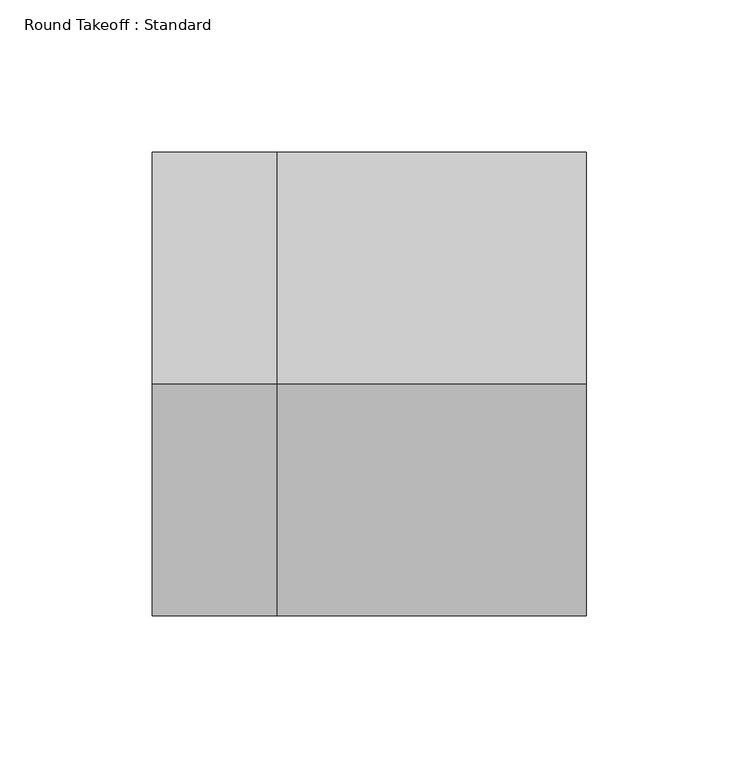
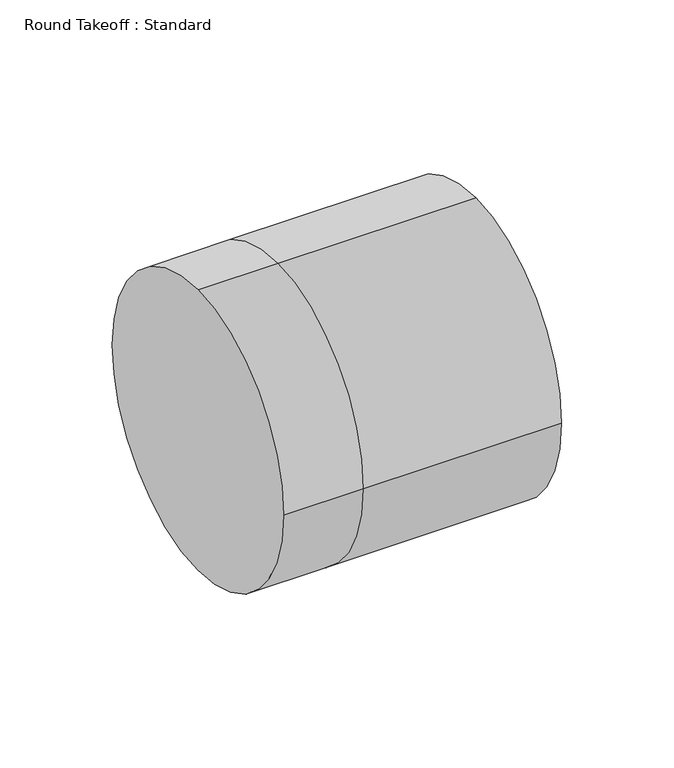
"""IFC4 building model written with IfcOpenShell, lengths in millimetres: duct fitting geometry, Round Takeoff : Standard."""

from ifc_helpers import new_model, si_unit, frame, origin, place, context, project, spatial, circle_curve, source, transform, mapped, element, save
from ifc_brep_helpers import plane_surface, cylinder_surface, advanced_brep


def round_takeoff_standard_90b5cc55(model_context):
    return source(origin(), model_context, "Body", "AdvancedBrep", [
        advanced_brep(
        [(101.6, 0.0, 76.2), (101.6, -76.2, 0.0), (101.6, 0.0, -76.2), (101.6, 76.2, 0.0), (0.0, 76.2, 0.0), (0.0, 0.0, 76.2), (0.0, 0.0, -76.2), (0.0, -76.2, 0.0), (-41.1626124, 0.0, 76.2), (-41.1626124, 76.2, 0.0), (-41.1626124, 0.0, -76.2), (-41.1626124, -76.2, 0.0)],
        [
            (0, 1, circle_curve(frame((101.6, 0.0, 0.0), z_axis=(1.0, 0.0, 0.0), x_axis=(0.0, 1.0, 0.0)), 76.2)),
            (1, 2, circle_curve(frame((101.6, 0.0, 0.0), z_axis=(1.0, 0.0, 0.0), x_axis=(0.0, 1.0, 0.0)), 76.2)),
            (2, 3, circle_curve(frame((101.6, 0.0, 0.0), z_axis=(1.0, 0.0, 0.0), x_axis=(0.0, 1.0, 0.0)), 76.2)),
            (3, 0, circle_curve(frame((101.6, 0.0, 0.0), z_axis=(1.0, 0.0, 0.0), x_axis=(0.0, 1.0, 0.0)), 76.2)),
            (3, 4),
            (4, 5, circle_curve(frame((0.0, 0.0, 0.0), z_axis=(1.0, 0.0, 0.0), x_axis=(0.0, 1.0, 0.0)), 76.2)),
            (5, 0),
            (2, 6),
            (6, 4, circle_curve(frame((0.0, 0.0, 0.0), z_axis=(1.0, 0.0, 0.0), x_axis=(0.0, 1.0, 0.0)), 76.2)),
            (1, 7),
            (7, 6, circle_curve(frame((0.0, 0.0, 0.0), z_axis=(1.0, 0.0, 0.0), x_axis=(0.0, 1.0, 0.0)), 76.2)),
            (5, 7, circle_curve(frame((0.0, 0.0, 0.0), z_axis=(1.0, 0.0, 0.0), x_axis=(0.0, 1.0, 0.0)), 76.2)),
            (8, 9, circle_curve(frame((-41.1626124, 0.0, 0.0), z_axis=(-1.0, 0.0, 0.0), x_axis=(0.0, 1.0, 0.0)), 76.2)),
            (9, 10, circle_curve(frame((-41.1626124, 0.0, 0.0), z_axis=(-1.0, 0.0, 0.0), x_axis=(0.0, 1.0, 0.0)), 76.2)),
            (10, 11, circle_curve(frame((-41.1626124, 0.0, 0.0), z_axis=(-1.0, 0.0, 0.0), x_axis=(0.0, 1.0, 0.0)), 76.2)),
            (11, 8, circle_curve(frame((-41.1626124, 0.0, 0.0), z_axis=(-1.0, 0.0, 0.0), x_axis=(0.0, 1.0, 0.0)), 76.2)),
            (8, 5),
            (4, 9),
            (6, 10),
            (7, 11),
        ],
        [
            plane_surface(frame((101.6, 0.0, 0.0), z_axis=(1.0, 0.0, 0.0), x_axis=(0.0, 0.0, 1.0))),
            cylinder_surface(frame((0.0, 0.0, 0.0), z_axis=(-1.0, 0.0, 0.0), x_axis=(0.0, 1.0, 0.0)), 76.2),
            plane_surface(frame((-41.1626124, 0.0, 0.0), z_axis=(-1.0, 0.0, 0.0), x_axis=(0.0, 0.0, 1.0))),
            cylinder_surface(frame((-41.1626124, 0.0, 0.0), z_axis=(-1.0, 0.0, 0.0), x_axis=(0.0, 1.0, 0.0)), 76.2),
        ],
        [
            (0, [[1, 2, 3, 4]]),
            (1, [[-4, 5, 6, 7]]),
            (1, [[-3, 8, 9, -5]]),
            (1, [[-2, 10, 11, -8]]),
            (1, [[-1, -7, 12, -10]]),
            (2, [[13, 14, 15, 16]]),
            (3, [[-13, 17, -6, 18]]),
            (3, [[-14, -18, -9, 19]]),
            (3, [[-15, -19, -11, 20]]),
            (3, [[-16, -20, -12, -17]]),
        ],
    ),
    ])


if __name__ == "__main__":
    model = new_model("IFC4")
    model_context = context("Model", 3, world=origin())
    ifc_project = project(units=[si_unit("LENGTHUNIT", "METRE", prefix="MILLI")], contexts=[model_context])
    site = spatial("IfcSite", under=ifc_project)
    building = spatial("IfcBuilding", under=site)
    placement = place(None, origin())
    round_takeoff_standard_shape = round_takeoff_standard_90b5cc55(model_context)
    element("IfcDuctFitting", 1, ObjectType="Round Takeoff : Standard", at=placement, inside=building, context=model_context, shape_type="MappedRepresentation", body=[
        mapped(round_takeoff_standard_shape, transform((0.0, 0.0, 0.0), x_axis=(1.0, 0.0, 0.0), y_axis=(0.0, 1.0, 0.0), z_axis=(0.0, 0.0, 1.0))),
    ])
    save(model, "model.ifc")
